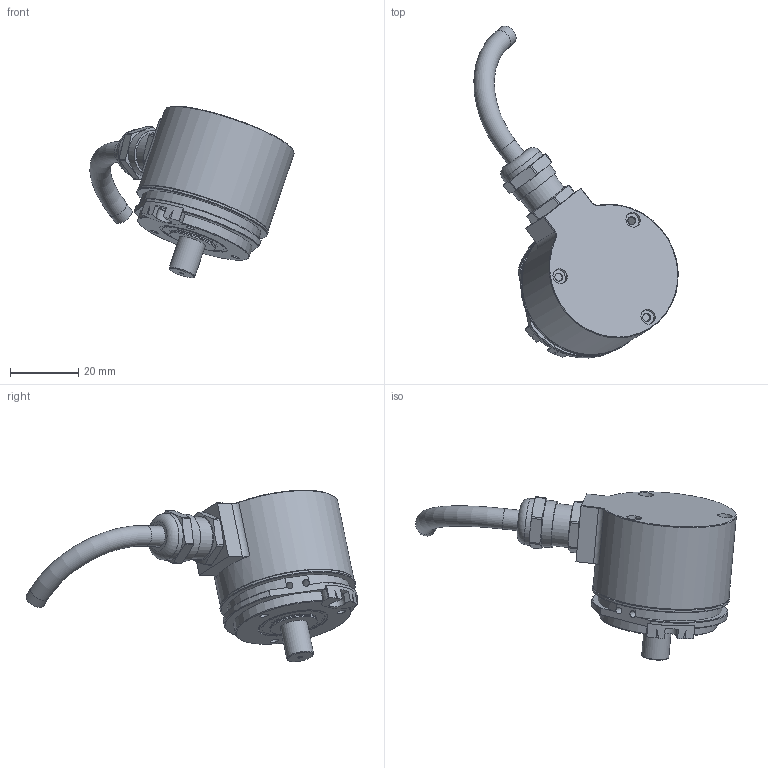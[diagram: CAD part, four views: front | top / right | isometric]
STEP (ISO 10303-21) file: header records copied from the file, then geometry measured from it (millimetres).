
FILE_DESCRIPTION(/* description */ (''),/* implementation_level */ '2;1');
FILE_NAME(/* name */ 'C:\Users\hnc\Desktop\엔코더\Sahft Type\S40\S40A_32_31_1.28(WIRE)\S40A_32_31_1.28(WIRE).stp',/* time_stamp */ '2023-05-28T16:45:53+09:00',/* author */ ('hnc'),/* organization */ (''),/* preprocessor_version */ 'ST-DEVELOPER v18.1',/* originating_system */ 'Autodesk Inventor 2021',/* authorisation */ '');
FILE_SCHEMA (('AUTOMOTIVE_DESIGN { 1 0 10303 214 3 1 1 }'));
Length unit declared in the file: millimetre
Products named in the file (12): H40A_32_31_1.28; 1-BASE; 2-Shaft; 4-Case; 3-Encoder_Base; 10-PCB_SPT; 13-Magnet; AL_BASE; Top_Flange; Open CASCADE STEP translator 6.8 5.1.1; 6801ZZ_12x21x5; PRE_M12X1_5
Assembly tree (12 placements, depth 2):
  H40A_32_31_1.28
    1-BASE
    2-Shaft
    4-Case
    3-Encoder_Base
    10-PCB_SPT
    13-Magnet
    AL_BASE
    Top_Flange
    Open CASCADE STEP translator 6.8 5.1.1
    6801ZZ_12x21x5  x2
    PRE_M12X1_5
Bounding box: 59.92 x 97.39 x 50.32 mm (x, y, z)
Volume: 32122.6 mm3; surface area: 33048.5 mm2
Topology: 173 solids, 173 shells, 1100 faces, 2459 edges, 1671 vertices
Faces by surface type: plane 627, cylinder 388, cone 42, sphere 28, torus 15
Full cylindrical faces by diameter (mm): 1.183 x4, 1.5 x1, 1.567 x4, 1.6 x4, 1.813 x3, 2.013 x6, 2.2 x5, 2.3 x3, 2.4 x3, 2.459 x3, 2.5 x4, 4.4 x3, 6 x2, 6.5 x1, 6.8 x1, 8 x1, 8.5 x1, 9.9 x1, 10.376 x1, 11 x1, 11.8 x1, 12 x5, 12.4 x1, 13 x2, 13.103 x1, 13.5 x1, 13.7 x2, 14 x9, 15 x4, 16.5 x1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
Entity records: 30623 total; most frequent: CARTESIAN_POINT 5485, DIRECTION 5322, ORIENTED_EDGE 4588, EDGE_CURVE 2294, AXIS2_PLACEMENT_3D 2022, VERTEX_POINT 1583, LINE 1278, VECTOR 1278
